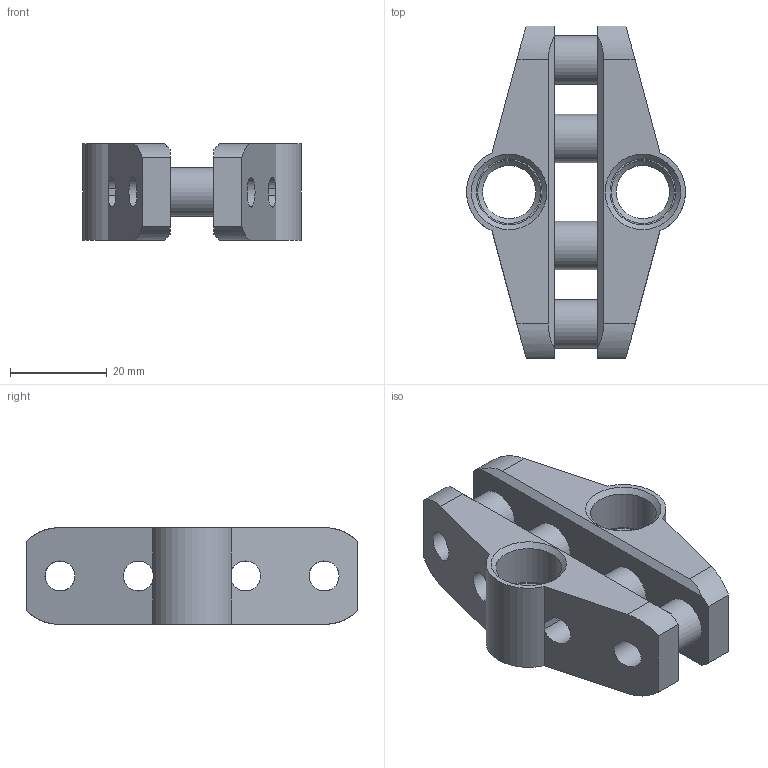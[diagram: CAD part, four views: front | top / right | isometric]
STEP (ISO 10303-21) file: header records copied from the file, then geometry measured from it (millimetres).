
FILE_DESCRIPTION(/* description */ (''),/* implementation_level */ '2;1');
FILE_NAME(/* name */ 'C:/Users/James/Desktop/3D models/JAL- Samsug S5 Earbud Holder/JAL- Samsung S5 Earbud Holder v1.step',/* time_stamp */ '2019-03-24T18:36:35-06:00',/* author */ ('jal741'),/* organization */ (''),/* preprocessor_version */ 'ST-DEVELOPER v17.2',/* originating_system */ 'Autodesk Translation Framework v7.6.0.251',/* authorisation */ '');
FILE_SCHEMA (('AUTOMOTIVE_DESIGN { 1 0 10303 214 3 1 1 }'));
Length unit declared in the file: millimetre
Products named in the file (2): JAL- Samsung S5 Earbud Holder; Component2
Assembly tree (1 placements, depth 2):
  JAL- Samsung S5 Earbud Holder
    Component2
Bounding box: 45.2 x 68.53 x 20 mm (x, y, z)
Volume: 24381 mm3; surface area: 12400.1 mm2
Topology: 1 solids, 1 shells, 47 faces, 127 edges, 82 vertices
Faces by surface type: cylinder 22, plane 21, cone 4
Full cylindrical faces by diameter (mm): 6.2 x3, 10 x4, 11 x2, 13.6 x2
Entity records: 1601 total; most frequent: DIRECTION 279, CARTESIAN_POINT 279, ORIENTED_EDGE 254, EDGE_CURVE 127, AXIS2_PLACEMENT_3D 106, VERTEX_POINT 82, LINE 67, VECTOR 67
